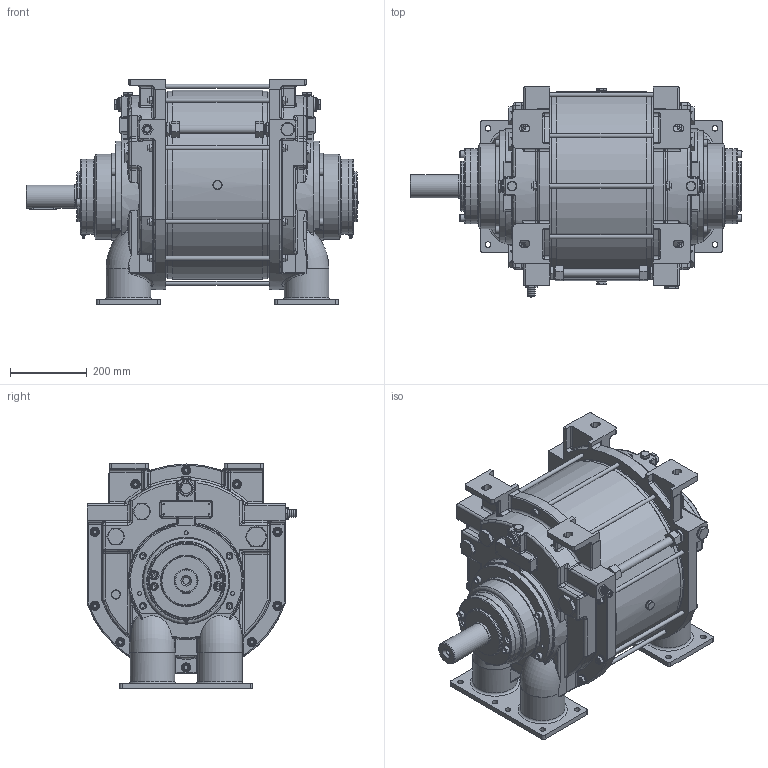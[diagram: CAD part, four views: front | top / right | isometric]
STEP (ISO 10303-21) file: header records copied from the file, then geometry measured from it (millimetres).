
FILE_DESCRIPTION(/* description */ ('','CAx-IF Rec.Pracs.---Representation and Presentation of Product Manufacturing Information (PMI)---4.0---2014-10-13'),/* implementation_level */ '2;1');
FILE_NAME(/* name */ 'E:\WorkSpace\Designs\1700\1700052.stp',/* time_stamp */ '2022-08-03T14:22:30+02:00',/* author */ ('JJ'),/* organization */ (''),/* preprocessor_version */ 'ST-DEVELOPER v18.1',/* originating_system */ 'Autodesk Inventor 2022',/* authorisation */ '');
FILE_SCHEMA (('AP242_MANAGED_MODEL_BASED_3D_ENGINEERING_MIM_LF { 1 0 10303 442 1 1 4 }'));
Products named in the file (1): 1700052
Bounding box: 862.5 x 545.5 x 585 mm (x, y, z)
Volume: 105802561.6 mm3; surface area: 2175310.8 mm2
Topology: 1 solids, 1 shells, 1940 faces, 4673 edges, 2841 vertices
Faces by surface type: plane 711, cylinder 596, cone 227, torus 192, bspline 142, sphere 72
Full cylindrical faces by diameter (mm): 3.3 x8, 8 x2, 10.106 x6, 10.75 x10, 12 x20, 13 x4, 15 x17, 17.294 x1, 18 x16, 19.847 x1, 19.984 x1, 20 x7, 21.8 x6, 22 x1, 23.8 x6, 24 x20, 24.5 x4, 26 x2, 27 x2, 28.58 x2, 30 x2, 31.8 x3, 34.93 x1, 35 x2, 39.8 x4, 42.8 x4, 49.8 x2, 52.38 x2, 60 x1, 62 x1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
Entity records: 65038 total; most frequent: CARTESIAN_POINT 19717, ORIENTED_EDGE 9200, DIRECTION 8982, EDGE_CURVE 4600, AXIS2_PLACEMENT_3D 3634, VERTEX_POINT 2841, EDGE_LOOP 2197, FACE_OUTER_BOUND 1940
